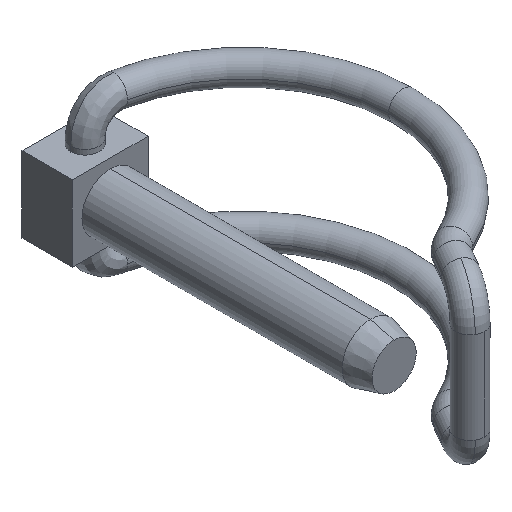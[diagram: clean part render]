
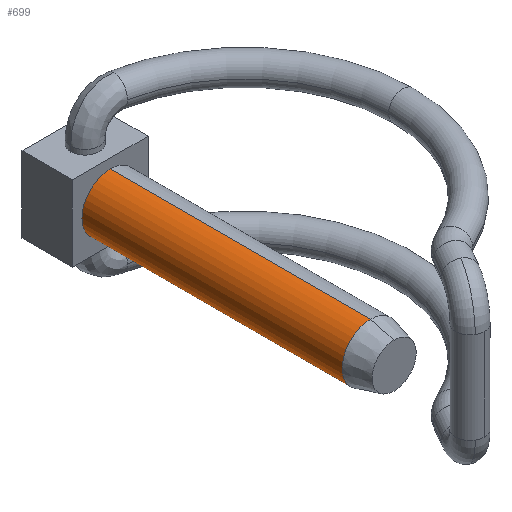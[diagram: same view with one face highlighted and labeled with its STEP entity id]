
A CAD part, isometric view. The second image highlights one B-rep face of the part: STEP entity #699.
In plain terms, the highlighted cylindrical face has radius 5.5 mm (diameter 11 mm), a partial arc.
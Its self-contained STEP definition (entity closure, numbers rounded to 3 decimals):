
#47 = EDGE_LOOP ( 'NONE', ( #991, #128, #1624, #228 ) ) ;
#128 = ORIENTED_EDGE ( 'NONE', *, *, #237, .T. ) ;
#150 = CIRCLE ( 'NONE', #1306, 5.5 ) ;
#175 = DIRECTION ( 'NONE',  ( 0., 1., 0. ) ) ;
#203 = DIRECTION ( 'NONE',  ( 0., 1., 0. ) ) ;
#221 = DIRECTION ( 'NONE',  ( 0., 1., 0. ) ) ;
#228 = ORIENTED_EDGE ( 'NONE', *, *, #1811, .F. ) ;
#237 = EDGE_CURVE ( 'NONE', #562, #1600, #150, .T. ) ;
#315 = CARTESIAN_POINT ( 'NONE',  ( 0., -55., 5.5 ) ) ;
#430 = EDGE_CURVE ( 'NONE', #562, #1685, #887, .T. ) ;
#460 = EDGE_CURVE ( 'NONE', #1600, #795, #1736, .T. ) ;
#562 = VERTEX_POINT ( 'NONE', #1021 ) ;
#588 = CARTESIAN_POINT ( 'NONE',  ( 0., -55., -5.5 ) ) ;
#699 = ADVANCED_FACE ( 'NONE', ( #1607 ), #935, .T. ) ;
#795 = VERTEX_POINT ( 'NONE', #1084 ) ;
#810 = AXIS2_PLACEMENT_3D ( 'NONE', #914, #221, #1760 ) ;
#864 = DIRECTION ( 'NONE',  ( 0., 1., 0. ) ) ;
#887 = LINE ( 'NONE', #588, #1250 ) ;
#888 = CARTESIAN_POINT ( 'NONE',  ( 0., 0., 0. ) ) ;
#914 = CARTESIAN_POINT ( 'NONE',  ( 0., -55., 0. ) ) ;
#931 = AXIS2_PLACEMENT_3D ( 'NONE', #888, #1159, #1456 ) ;
#935 = CYLINDRICAL_SURFACE ( 'NONE', #810, 5.5 ) ;
#955 = VECTOR ( 'NONE', #864, 1000. ) ;
#991 = ORIENTED_EDGE ( 'NONE', *, *, #430, .F. ) ;
#1021 = CARTESIAN_POINT ( 'NONE',  ( 0., -50.439, -5.5 ) ) ;
#1084 = CARTESIAN_POINT ( 'NONE',  ( 0., 0., 5.5 ) ) ;
#1117 = CARTESIAN_POINT ( 'NONE',  ( 0., -50.439, 5.5 ) ) ;
#1159 = DIRECTION ( 'NONE',  ( 0., 1., 0. ) ) ;
#1250 = VECTOR ( 'NONE', #175, 1000. ) ;
#1306 = AXIS2_PLACEMENT_3D ( 'NONE', #1505, #203, #1627 ) ;
#1400 = CIRCLE ( 'NONE', #931, 5.5 ) ;
#1456 = DIRECTION ( 'NONE',  ( 0., 0., 1. ) ) ;
#1505 = CARTESIAN_POINT ( 'NONE',  ( 0., -50.439, 0. ) ) ;
#1600 = VERTEX_POINT ( 'NONE', #1117 ) ;
#1607 = FACE_OUTER_BOUND ( 'NONE', #47, .T. ) ;
#1624 = ORIENTED_EDGE ( 'NONE', *, *, #460, .T. ) ;
#1627 = DIRECTION ( 'NONE',  ( 0., 0., 1. ) ) ;
#1685 = VERTEX_POINT ( 'NONE', #1824 ) ;
#1736 = LINE ( 'NONE', #315, #955 ) ;
#1760 = DIRECTION ( 'NONE',  ( 0., 0., 1. ) ) ;
#1811 = EDGE_CURVE ( 'NONE', #1685, #795, #1400, .T. ) ;
#1824 = CARTESIAN_POINT ( 'NONE',  ( 0., 0., -5.5 ) ) ;
